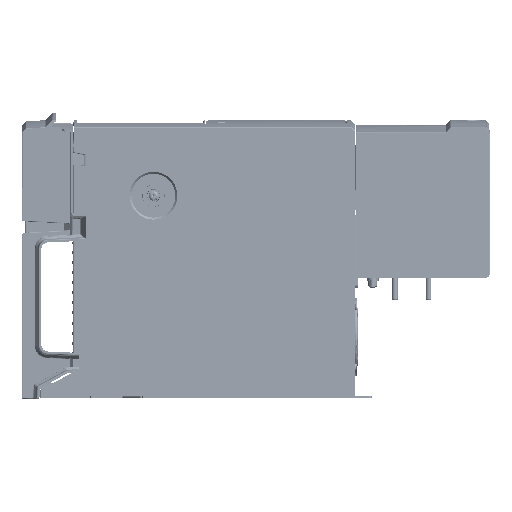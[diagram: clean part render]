
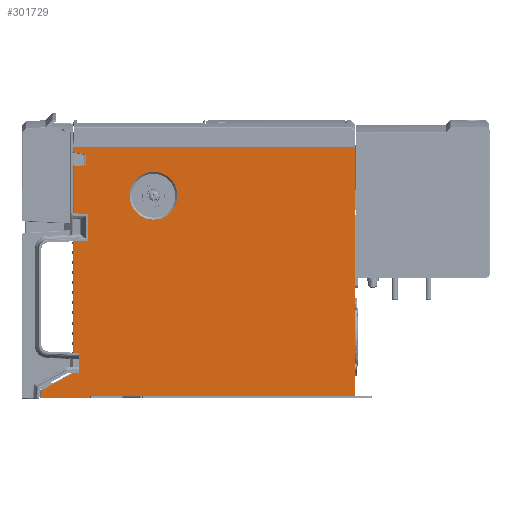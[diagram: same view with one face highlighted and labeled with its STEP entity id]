
A CAD part, left-side view. The second image highlights one B-rep face of the part: STEP entity #301729.
In plain terms, the highlighted planar face has unit normal (-1, 0, 0).
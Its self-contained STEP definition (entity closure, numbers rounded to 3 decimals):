
#53617=CARTESIAN_POINT('',(-52.5,-54.9,-25.7));
#53618=DIRECTION('',(-1.,0.,0.));
#53619=DIRECTION('',(0.,-1.,0.));
#53620=AXIS2_PLACEMENT_3D('',#53617,#53618,#53619);
#53622=CARTESIAN_POINT('',(-52.5,-54.9,-25.7));
#53623=DIRECTION('',(-1.,0.,0.));
#53624=DIRECTION('',(0.,0.,1.));
#53625=AXIS2_PLACEMENT_3D('',#53622,#53623,#53624);
#53627=CARTESIAN_POINT('',(-52.5,-54.9,-25.7));
#53628=DIRECTION('',(-1.,0.,0.));
#53629=DIRECTION('',(0.,1.,0.));
#53630=AXIS2_PLACEMENT_3D('',#53627,#53628,#53629);
#53632=CARTESIAN_POINT('',(-52.5,-54.9,-25.7));
#53633=DIRECTION('',(-1.,0.,0.));
#53634=DIRECTION('',(0.,0.,-1.));
#53635=AXIS2_PLACEMENT_3D('',#53632,#53633,#53634);
#53637=DIRECTION('',(0.,0.,1.));
#53638=VECTOR('',#53637,12.926);
#53639=CARTESIAN_POINT('',(-52.5,-5.381,
-53.492));
#53640=LINE('',#53639,#53638);
#53641=CARTESIAN_POINT('',(-52.5,-5.381,
-40.566));
#53642=CARTESIAN_POINT('',(-52.5,-5.381,
-40.484));
#53643=CARTESIAN_POINT('',(-52.5,-5.342,
-40.341));
#53644=CARTESIAN_POINT('',(-52.5,-5.17,-40.169));
#53645=CARTESIAN_POINT('',(-52.5,-5.003,
-40.117));
#53646=CARTESIAN_POINT('',(-52.5,-4.904,
-40.112));
#53648=DIRECTION('',(0.,0.999,0.052));
#53649=VECTOR('',#53648,3.96);
#53650=CARTESIAN_POINT('',(-52.5,-4.904,
-40.112));
#53651=LINE('',#53650,#53649);
#53652=CARTESIAN_POINT('',(-52.5,-0.5,-39.767));
#53653=CARTESIAN_POINT('',(-52.5,-0.639,-39.85));
#53654=CARTESIAN_POINT('',(-52.5,-0.788,-39.896));
#53655=CARTESIAN_POINT('',(-52.5,-0.949,-39.905));
#53657=DIRECTION('',(0.,0.985,0.174));
#53658=VECTOR('',#53657,8.22);
#53659=CARTESIAN_POINT('',(-52.5,-8.595,
2.659));
#53660=LINE('',#53659,#53658);
#53661=DIRECTION('',(0.,-0.878,0.479));
#53662=VECTOR('',#53661,24.55);
#53663=CARTESIAN_POINT('',(-52.5,22.,-158.897));
#53664=LINE('',#53663,#53662);
#53665=DIRECTION('',(0.,-0.996,0.087));
#53666=VECTOR('',#53665,0.951);
#53667=CARTESIAN_POINT('',(-52.5,0.448,-147.141));
#53668=LINE('',#53667,#53666);
#53669=DIRECTION('',(0.,0.999,-0.052));
#53670=VECTOR('',#53669,4.336);
#53671=CARTESIAN_POINT('',(-52.5,-4.83,-53.999));
#53672=LINE('',#53671,#53670);
#53673=CARTESIAN_POINT('',(-52.5,-4.83,-53.999));
#53674=CARTESIAN_POINT('',(-52.5,-5.001,-53.99));
#53675=CARTESIAN_POINT('',(-52.5,-5.234,-53.868));
#53676=CARTESIAN_POINT('',(-52.5,-5.381,-53.664));
#53677=CARTESIAN_POINT('',(-52.5,-5.381,-53.492));
#64955=DIRECTION('',(0.,0.,-1.));
#64956=VECTOR('',#64955,92.832);
#64957=CARTESIAN_POINT('',(-52.5,-0.5,-54.226));
#64958=LINE('',#64957,#64956);
#64983=DIRECTION('',(0.,0.,-1.));
#64984=VECTOR('',#64983,34.072);
#64985=CARTESIAN_POINT('',(-52.5,-0.5,-5.695));
#64986=LINE('',#64985,#64984);
#137094=DIRECTION('',(0.,0.,1.));
#137095=VECTOR('',#137094,169.912);
#137096=CARTESIAN_POINT('',(-52.5,-192.5,-162.6));
#137097=LINE('',#137096,#137095);
#137653=DIRECTION('',(0.,-1.,0.));
#137654=VECTOR('',#137653,181.005);
#137655=CARTESIAN_POINT('',(-52.5,-11.495,-162.6));
#137656=LINE('',#137655,#137654);
#139989=DIRECTION('',(0.,-1.,0.));
#139990=VECTOR('',#139989,33.46);
#139991=CARTESIAN_POINT('',(-52.5,22.,-164.1));
#139992=LINE('',#139991,#139990);
#141050=DIRECTION('',(0.,0.,-1.));
#141051=VECTOR('',#141050,5.203);
#141052=CARTESIAN_POINT('',(-52.5,22.,-158.897));
#141053=LINE('',#141052,#141051);
#141531=DIRECTION('',(0.,-0.023,1.));
#141532=VECTOR('',#141531,1.5);
#141533=CARTESIAN_POINT('',(-52.5,-11.46,-164.1));
#141534=LINE('',#141533,#141532);
#178548=DIRECTION('',(0.,1.,0.));
#178549=VECTOR('',#178548,192.);
#178550=CARTESIAN_POINT('',(-52.5,-192.5,7.312));
#178551=LINE('',#178550,#178549);
#178562=DIRECTION('',(0.,0.,-1.));
#178563=VECTOR('',#178562,3.226);
#178564=CARTESIAN_POINT('',(-52.5,-0.5,7.312));
#178565=LINE('',#178564,#178563);
#178602=DIRECTION('',(0.,0.,-1.));
#178603=VECTOR('',#178602,8.354);
#178604=CARTESIAN_POINT('',(-52.5,-8.595,
2.659));
#178605=LINE('',#178604,#178603);
#178626=DIRECTION('',(0.,1.,0.));
#178627=VECTOR('',#178626,8.095);
#178628=CARTESIAN_POINT('',(-52.5,-8.595,-5.695));
#178629=LINE('',#178628,#178627);
#237606=CARTESIAN_POINT('',(-52.5,-71.25,-25.7));
#237607=VERTEX_POINT('',#237606);
#237608=CARTESIAN_POINT('',(-52.5,22.,-158.897));
#237609=CARTESIAN_POINT('',(-52.5,0.448,-147.141));
#237610=VERTEX_POINT('',#237608);
#237611=VERTEX_POINT('',#237609);
#237612=CARTESIAN_POINT('',(-52.5,-0.5,-147.058));
#237613=VERTEX_POINT('',#237612);
#237614=CARTESIAN_POINT('',(-52.5,-8.595,
2.659));
#237615=CARTESIAN_POINT('',(-52.5,-0.5,
4.086));
#237616=VERTEX_POINT('',#237614);
#237617=VERTEX_POINT('',#237615);
#237618=CARTESIAN_POINT('',(-52.5,22.,-164.1));
#237619=CARTESIAN_POINT('',(-52.5,-11.46,-164.1));
#237620=VERTEX_POINT('',#237618);
#237621=VERTEX_POINT('',#237619);
#237622=CARTESIAN_POINT('',(-52.5,-54.9,-9.35));
#237623=VERTEX_POINT('',#237622);
#237624=CARTESIAN_POINT('',(-52.5,-38.55,-25.7));
#237625=VERTEX_POINT('',#237624);
#237626=CARTESIAN_POINT('',(-52.5,-54.9,-42.05));
#237627=VERTEX_POINT('',#237626);
#241108=CARTESIAN_POINT('',(-52.5,-192.5,7.312));
#241109=CARTESIAN_POINT('',(-52.5,-0.5,7.312));
#241110=VERTEX_POINT('',#241108);
#241111=VERTEX_POINT('',#241109);
#241112=CARTESIAN_POINT('',(-52.5,-192.5,-162.6));
#241113=VERTEX_POINT('',#241112);
#241132=CARTESIAN_POINT('',(-52.5,-11.495,-162.6));
#241133=VERTEX_POINT('',#241132);
#243098=CARTESIAN_POINT('',(-52.5,-0.5,-5.695));
#243100=VERTEX_POINT('',#243098);
#243102=CARTESIAN_POINT('',(-52.5,-8.595,-5.695));
#243103=VERTEX_POINT('',#243102);
#283325=CARTESIAN_POINT('',(-52.5,-5.381,
-53.492));
#283326=CARTESIAN_POINT('',(-52.5,-5.381,
-40.566));
#283327=VERTEX_POINT('',#283325);
#283328=VERTEX_POINT('',#283326);
#283329=VERTEX_POINT('',#53673);
#283330=CARTESIAN_POINT('',(-52.5,-0.5,-54.226));
#283331=VERTEX_POINT('',#283330);
#283332=VERTEX_POINT('',#53646);
#283333=CARTESIAN_POINT('',(-52.5,-0.949,
-39.905));
#283334=VERTEX_POINT('',#283333);
#283335=VERTEX_POINT('',#53652);
#301673=CARTESIAN_POINT('',(-52.5,-85.25,-78.394));
#301674=DIRECTION('',(1.,0.,0.));
#301675=DIRECTION('',(0.,0.,1.));
#301676=AXIS2_PLACEMENT_3D('',#301673,#301674,#301675);
#301677=PLANE('',#301676);
#301679=ORIENTED_EDGE('',*,*,#301678,.T.);
#301681=ORIENTED_EDGE('',*,*,#301680,.T.);
#301683=ORIENTED_EDGE('',*,*,#301682,.T.);
#301685=ORIENTED_EDGE('',*,*,#301684,.F.);
#301687=ORIENTED_EDGE('',*,*,#301686,.F.);
#301689=ORIENTED_EDGE('',*,*,#301688,.F.);
#301691=ORIENTED_EDGE('',*,*,#301690,.F.);
#301693=ORIENTED_EDGE('',*,*,#301692,.T.);
#301695=ORIENTED_EDGE('',*,*,#301694,.F.);
#301697=ORIENTED_EDGE('',*,*,#301696,.F.);
#301699=ORIENTED_EDGE('',*,*,#301698,.F.);
#301701=ORIENTED_EDGE('',*,*,#301700,.F.);
#301703=ORIENTED_EDGE('',*,*,#301702,.F.);
#301705=ORIENTED_EDGE('',*,*,#301704,.F.);
#301707=ORIENTED_EDGE('',*,*,#301706,.F.);
#301709=ORIENTED_EDGE('',*,*,#301708,.T.);
#301711=ORIENTED_EDGE('',*,*,#301710,.T.);
#301713=ORIENTED_EDGE('',*,*,#301712,.F.);
#301714=ORIENTED_EDGE('',*,*,#301655,.F.);
#301716=ORIENTED_EDGE('',*,*,#301715,.T.);
#301717=EDGE_LOOP('',(#301679,#301681,#301683,#301685,#301687,#301689,#301691,
#301693,#301695,#301697,#301699,#301701,#301703,#301705,#301707,#301709,#301711,
#301713,#301714,#301716));
#301718=FACE_OUTER_BOUND('',#301717,.F.);
#301720=ORIENTED_EDGE('',*,*,#301719,.T.);
#301722=ORIENTED_EDGE('',*,*,#301721,.T.);
#301724=ORIENTED_EDGE('',*,*,#301723,.T.);
#301726=ORIENTED_EDGE('',*,*,#301725,.T.);
#301727=EDGE_LOOP('',(#301720,#301722,#301724,#301726));
#301728=FACE_BOUND('',#301727,.F.);
#301729=ADVANCED_FACE('',(#301718,#301728),#301677,.F.);
#53621=CIRCLE('',#53620,16.35);
#53626=CIRCLE('',#53625,16.35);
#53631=CIRCLE('',#53630,16.35);
#53636=CIRCLE('',#53635,16.35);
#53647=B_SPLINE_CURVE_WITH_KNOTS('',3,(#53641,#53642,#53643,#53644,#53645,
#53646),.UNSPECIFIED.,.F.,.F.,(4,1,1,4),(0.,0.333,
0.667,1.),.UNSPECIFIED.);
#53656=B_SPLINE_CURVE_WITH_KNOTS('',3,(#53652,#53653,#53654,#53655),
.UNSPECIFIED.,.F.,.F.,(4,4),(0.,1.),.UNSPECIFIED.);
#53678=B_SPLINE_CURVE_WITH_KNOTS('',3,(#53673,#53674,#53675,#53676,#53677),
.UNSPECIFIED.,.F.,.F.,(4,1,4),(0.,0.5,1.),.UNSPECIFIED.);
#301655=EDGE_CURVE('',#283329,#283331,#53672,.T.);
#301678=EDGE_CURVE('',#283327,#283328,#53640,.T.);
#301680=EDGE_CURVE('',#283328,#283332,#53647,.T.);
#301682=EDGE_CURVE('',#283332,#283334,#53651,.T.);
#301684=EDGE_CURVE('',#283335,#283334,#53656,.T.);
#301686=EDGE_CURVE('',#243100,#283335,#64986,.T.);
#301688=EDGE_CURVE('',#243103,#243100,#178629,.T.);
#301690=EDGE_CURVE('',#237616,#243103,#178605,.T.);
#301692=EDGE_CURVE('',#237616,#237617,#53660,.T.);
#301694=EDGE_CURVE('',#241111,#237617,#178565,.T.);
#301696=EDGE_CURVE('',#241110,#241111,#178551,.T.);
#301698=EDGE_CURVE('',#241113,#241110,#137097,.T.);
#301700=EDGE_CURVE('',#241133,#241113,#137656,.T.);
#301702=EDGE_CURVE('',#237621,#241133,#141534,.T.);
#301704=EDGE_CURVE('',#237620,#237621,#139992,.T.);
#301706=EDGE_CURVE('',#237610,#237620,#141053,.T.);
#301708=EDGE_CURVE('',#237610,#237611,#53664,.T.);
#301710=EDGE_CURVE('',#237611,#237613,#53668,.T.);
#301712=EDGE_CURVE('',#283331,#237613,#64958,.T.);
#301715=EDGE_CURVE('',#283329,#283327,#53678,.T.);
#301719=EDGE_CURVE('',#237607,#237623,#53621,.T.);
#301721=EDGE_CURVE('',#237623,#237625,#53626,.T.);
#301723=EDGE_CURVE('',#237625,#237627,#53631,.T.);
#301725=EDGE_CURVE('',#237627,#237607,#53636,.T.);
